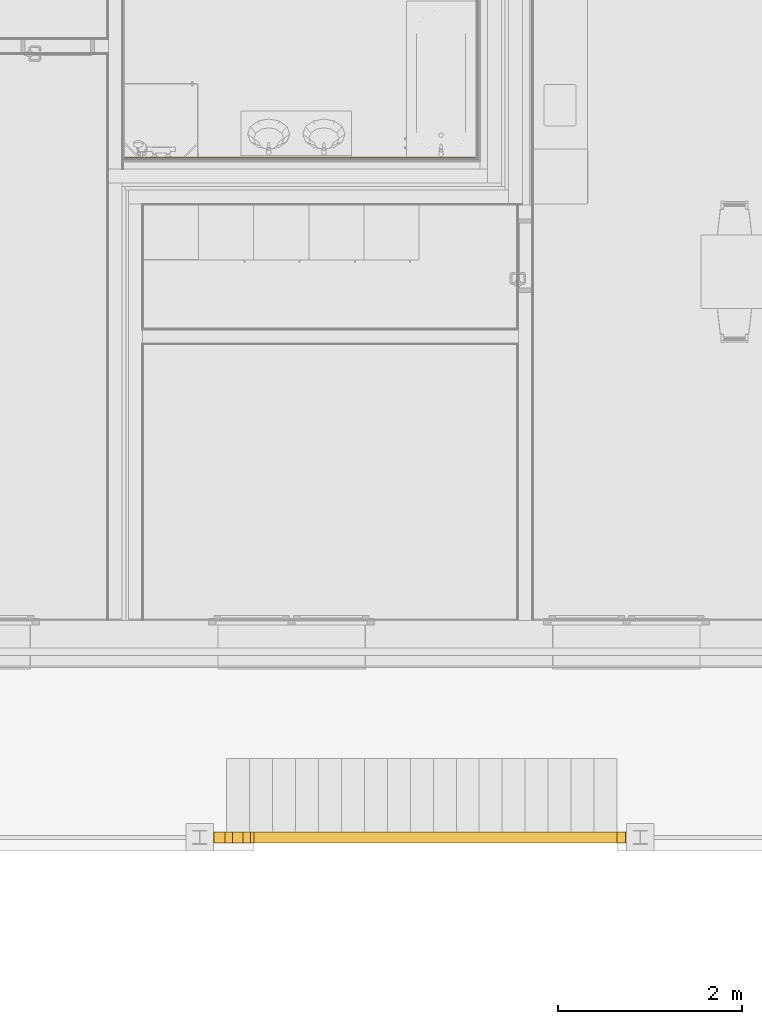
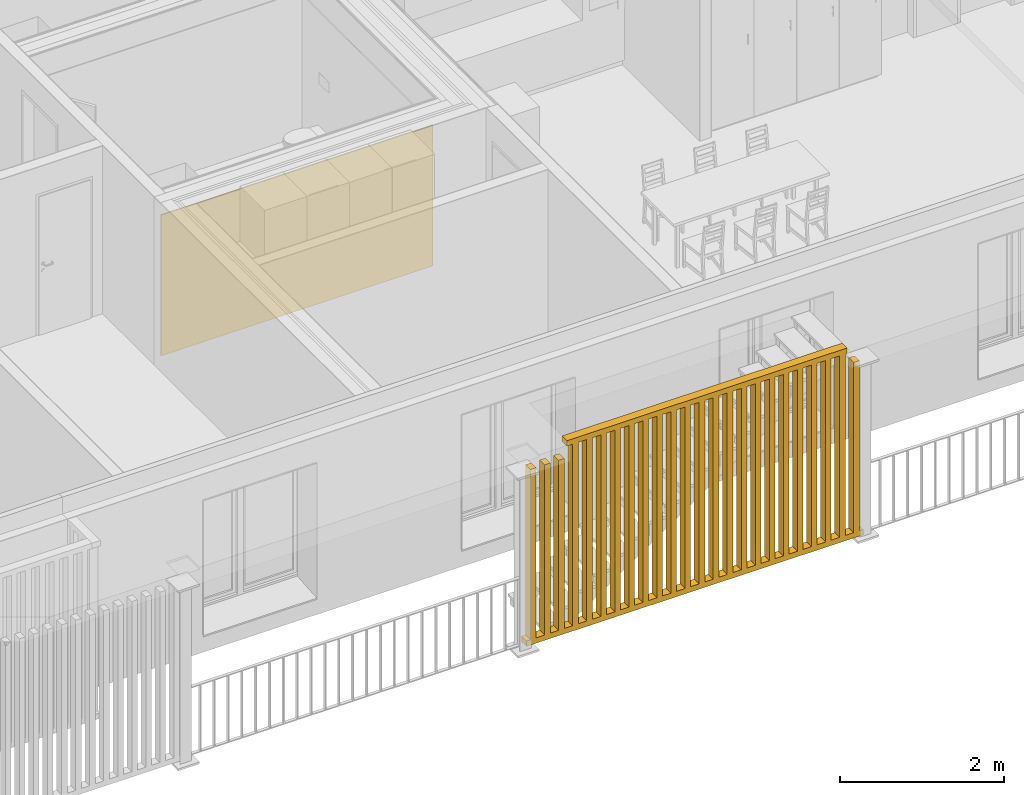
# One storey, part 25 of 34: 1 covering, 1 railing.
"""IFC4 building model written with IfcOpenShell, lengths in millimetres."""

import ifcopenshell
import ifcopenshell.guid

model = None  # the IFC model being written
_history = None  # IfcOwnerHistory: only IFC2X3 demands one
_inside = {}  # id of a spatial element -> (the spatial element, [elements in it])
_under = {}  # id of a project, library or spatial element -> (it, [spatial elements below it])
_declared = {}  # id of a project -> (the project, [libraries it declares])
_typed = {}  # id of a type object -> (the type object, [elements of that type])
_made_of = {}  # id of a material, layer set ... -> (it, [elements and type objects made of it])


def new_model(schema):
    """Start an empty IFC model of exactly this schema.

    Asked for "IFC4X3", IfcOpenShell would pick the latest addendum, in which some entities
    have other attributes; the version numbers below select the first issue.
    IFC2X3 requires an IfcOwnerHistory on every rooted entity: one is made here for all.
    """
    global model, _history
    if schema == "IFC4X3":
        model = ifcopenshell.file(schema_version=(4, 3, 0, 0))
    else:
        model = ifcopenshell.file(schema=schema)
    _inside.clear()
    _under.clear()
    _declared.clear()
    _typed.clear()
    _made_of.clear()
    _history = None
    if model.schema == "IFC2X3":
        org = make("IfcOrganization", Name="unknown")
        user = make(
            "IfcPersonAndOrganization",
            ThePerson=make("IfcPerson", FamilyName="unknown"),
            TheOrganization=org,
        )
        app = make(
            "IfcApplication",
            ApplicationDeveloper=org,
            Version="unknown",
            ApplicationFullName="unknown",
            ApplicationIdentifier="unknown",
        )
        _history = make(
            "IfcOwnerHistory",
            OwningUser=user,
            OwningApplication=app,
            ChangeAction="ADDED",
            CreationDate=0,
        )
    return model


def make(cls, **values):
    """One entity of the class cls with the attributes given. An attribute that is None is left unset."""
    return model.create_entity(
        cls, **{name: value for name, value in values.items() if value is not None}
    )


def entity(cls, *values):
    """Any entity or typed value of the class cls, its attributes in the order of the schema. None: left unset."""
    e = model.create_entity(cls)
    for i, value in enumerate(values):
        if value is not None:
            e[i] = value
    return e


def rooted(cls, **values):
    """An entity with a GlobalId (a new one), such as an element, a storey or a relation."""
    return make(cls, GlobalId=ifcopenshell.guid.new(), OwnerHistory=_history, **values)


def si_unit(unit_type, name, prefix=None):
    """IfcSIUnit, for example si_unit("LENGTHUNIT", "METRE", prefix="MILLI")."""
    return make("IfcSIUnit", UnitType=unit_type, Prefix=prefix, Name=name)


def converted_unit(unit_type, name, factor, base, dimensions=None, offset=None):
    """IfcConversionBasedUnit, such as the inch: factor (a typed value) times the base unit."""
    return make(
        "IfcConversionBasedUnit"
        if offset is None
        else "IfcConversionBasedUnitWithOffset",
        ConversionOffset=offset,
        Dimensions=None
        if dimensions is None
        else entity("IfcDimensionalExponents", *dimensions),
        UnitType=unit_type,
        Name=name,
        ConversionFactor=make(
            "IfcMeasureWithUnit", ValueComponent=factor, UnitComponent=base
        ),
    )


def derived_unit(unit_type, elements):
    """IfcDerivedUnit: a product of units, each with its exponent."""
    return make(
        "IfcDerivedUnit",
        Elements=[
            make("IfcDerivedUnitElement", Unit=unit, Exponent=power)
            for unit, power in elements
        ],
        UnitType=unit_type,
    )


def assignment(units):
    """IfcUnitAssignment: the units of a project."""
    return None if units is None else make("IfcUnitAssignment", Units=units)


def point(xyz):
    """IfcCartesianPoint."""
    return None if xyz is None else make("IfcCartesianPoint", Coordinates=xyz)


def direction(xyz):
    """IfcDirection."""
    return None if xyz is None else make("IfcDirection", DirectionRatios=xyz)


def frame(location, z_axis=None, x_axis=None):
    """IfcAxis2Placement3D, a coordinate frame: its origin and axes. An axis left out is left unset."""
    return make(
        "IfcAxis2Placement3D",
        Location=point(location),
        Axis=direction(z_axis),
        RefDirection=direction(x_axis),
    )


def origin_with_axes():
    """The frame at (0, 0, 0) with the z axis (0, 0, 1) and the x axis (1, 0, 0) written out."""
    return frame((0.0, 0.0, 0.0), z_axis=(0.0, 0.0, 1.0), x_axis=(1.0, 0.0, 0.0))


def place(relative_to, where):
    """IfcLocalPlacement: puts the frame where relative to a parent placement (None: the world)."""
    return make(
        "IfcLocalPlacement", PlacementRelTo=relative_to, RelativePlacement=where
    )


def context(
    kind, dimensions, precision=None, world=None, true_north=None, identifier=None
):
    """IfcGeometricRepresentationContext, for example the 3D "Model" context."""
    return make(
        "IfcGeometricRepresentationContext",
        ContextIdentifier=identifier,
        ContextType=kind,
        CoordinateSpaceDimension=dimensions,
        Precision=precision,
        WorldCoordinateSystem=world,
        TrueNorth=true_north,
    )


def subcontext(parent, identifier, kind, view, scale=None):
    """IfcGeometricRepresentationSubContext, for example "Body" below "Model"."""
    return make(
        "IfcGeometricRepresentationSubContext",
        ContextIdentifier=identifier,
        ContextType=kind,
        ParentContext=parent,
        TargetScale=scale,
        TargetView=view,
    )


def project(units=None, contexts=None):
    """IfcProject with its units and contexts."""
    return rooted(
        "IfcProject",
        Name="project",
        RepresentationContexts=contexts,
        UnitsInContext=assignment(units),
    )


def spatial(cls, under=None, at=None, **own):
    """A site, building, storey or space (cls), placed at a placement, below another one or the project."""
    s = rooted(cls, ObjectPlacement=at, **own)
    if under is not None:
        _under.setdefault(under.id(), (under, []))[1].append(s)
    return s


def point_list(points):
    """IfcCartesianPointList2D or 3D."""
    cls = (
        "IfcCartesianPointList2D" if len(points[0]) == 2 else "IfcCartesianPointList3D"
    )
    return make(cls, CoordList=points)


def polygons(points, faces, closed=None, point_numbers=None):
    """IfcPolygonalFaceSet: a face is its outer loop, then its inner loops; points numbered from 1."""
    made = []
    for loops in faces:
        if len(loops) == 1:
            made.append(make("IfcIndexedPolygonalFace", CoordIndex=loops[0]))
        else:
            made.append(
                make(
                    "IfcIndexedPolygonalFaceWithVoids",
                    CoordIndex=loops[0],
                    InnerCoordIndices=loops[1:],
                )
            )
    return make(
        "IfcPolygonalFaceSet",
        Coordinates=point_list(points),
        Closed=closed,
        Faces=made,
        PnIndex=point_numbers,
    )


def shape(context_of_items, identifier, shape_type, items):
    """IfcShapeRepresentation: the items that make up one representation, for example the "Body"."""
    return make(
        "IfcShapeRepresentation",
        ContextOfItems=context_of_items,
        RepresentationIdentifier=identifier,
        RepresentationType=shape_type,
        Items=items,
    )


def material(Name=None, Category=None):
    """IfcMaterial."""
    return make("IfcMaterial", Name=Name, Category=Category)


def constituent(of_material, Name=None, Category=None, fraction=None):
    """IfcMaterialConstituent: one of the materials an element consists of."""
    return make(
        "IfcMaterialConstituent",
        Name=Name,
        Material=of_material,
        Fraction=fraction,
        Category=Category,
    )


def constituent_set(constituents=None, Name=None):
    """IfcMaterialConstituentSet."""
    return make(
        "IfcMaterialConstituentSet", Name=Name, MaterialConstituents=constituents
    )


def made_of(thing, what):
    """Note that an element or type object is made of a material, layer set ...; save() writes the relation."""
    if what is not None:
        _made_of.setdefault(what.id(), (what, []))[1].append(thing)
    return thing


def type_object(cls, material=None, **own):
    """A type object (cls), such as IfcWallType, which elements share."""
    return made_of(rooted(cls, **own), material)


def element(
    cls,
    number,
    at=None,
    inside=None,
    cuts=None,
    type_object=None,
    material=None,
    context=None,
    identifier="Body",
    shape_type=None,
    held_by="IfcProductDefinitionShape",
    body=None,
    shapes=None,
    **own,
):
    """One element of the class cls, such as IfcWall. Its Tag is "e" and its number.

    at: its placement. inside: the storey or other place that contains it. cuts: it is an
    opening in that element (IfcRelVoidsElement). A single representation is given by context,
    identifier, shape_type and body (its items); several are given by shapes. held_by: the class
    of the entity that holds the representations. save() writes the other relations.
    """
    e = rooted(cls, Tag="e%d" % number, ObjectPlacement=at, **own)
    if body is not None:
        shapes = [shape(context, identifier, shape_type, body)]
    if shapes is not None:
        e.Representation = make(held_by, Representations=shapes)
    if inside is not None:
        _inside.setdefault(inside.id(), (inside, []))[1].append(e)
    if cuts is not None:
        rooted(
            "IfcRelVoidsElement", RelatingBuildingElement=cuts, RelatedOpeningElement=e
        )
    if type_object is not None:
        _typed.setdefault(type_object.id(), (type_object, []))[1].append(e)
    return made_of(e, material)


def aggregate(whole, parts):
    """IfcRelAggregates: a whole, such as a stair, and the parts it consists of."""
    return rooted("IfcRelAggregates", RelatingObject=whole, RelatedObjects=parts)


def save(model, path):
    """Write the relations noted so far, then the file.

    IfcRelAggregates (storeys below a building ...), IfcRelContainedInSpatialStructure (elements
    in a storey), IfcRelDefinesByType, IfcRelAssociatesMaterial and IfcRelDeclares: one each for
    every whole, place, type object, material and project.
    """
    for whole, parts in _under.values():
        aggregate(whole, parts)
    for where, things in _inside.values():
        rooted(
            "IfcRelContainedInSpatialStructure",
            RelatedElements=things,
            RelatingStructure=where,
        )
    for kind, things in _typed.values():
        rooted("IfcRelDefinesByType", RelatedObjects=things, RelatingType=kind)
    for what, things in _made_of.values():
        rooted("IfcRelAssociatesMaterial", RelatedObjects=things, RelatingMaterial=what)
    for by, libraries in _declared.values():
        rooted("IfcRelDeclares", RelatingContext=by, RelatedDefinitions=libraries)
    model.write(path)


model = new_model("IFC4")

# Units and contexts
model_context = context("Model", 3, precision=0.01, world=origin_with_axes(), true_north=direction((0.0, 1.0)))
body_context = subcontext(model_context, "Body", "Model", "MODEL_VIEW")
ifc_project = project(units=[si_unit("LENGTHUNIT", "METRE", prefix="MILLI"), si_unit("AREAUNIT", "SQUARE_METRE"), si_unit("VOLUMEUNIT", "CUBIC_METRE"), converted_unit("PLANEANGLEUNIT", "DEGREE", entity("IfcPlaneAngleMeasure", 0.0174532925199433), si_unit("PLANEANGLEUNIT", "RADIAN"), dimensions=[0, 0, 0, 0, 0, 0, 0]), converted_unit("TIMEUNIT", "Year", entity("IfcTimeMeasure", 31557600.0), si_unit("TIMEUNIT", "SECOND"), dimensions=[0, 0, 1, 0, 0, 0, 0]), si_unit("MASSUNIT", "GRAM", prefix="KILO"), si_unit("THERMODYNAMICTEMPERATUREUNIT", "DEGREE_CELSIUS"), si_unit("LUMINOUSINTENSITYUNIT", "LUMEN"), si_unit("ENERGYUNIT", "JOULE", prefix="MEGA"), derived_unit("THERMALCONDUCTANCEUNIT", [(si_unit("POWERUNIT", "WATT"), 1), (si_unit("LENGTHUNIT", "METRE"), -1), (si_unit("THERMODYNAMICTEMPERATUREUNIT", "KELVIN"), -1)]), derived_unit("SPECIFICHEATCAPACITYUNIT", [(si_unit("ENERGYUNIT", "JOULE"), 1), (si_unit("MASSUNIT", "GRAM", prefix="KILO"), -1), (si_unit("THERMODYNAMICTEMPERATUREUNIT", "KELVIN"), -1)]), derived_unit("MASSDENSITYUNIT", [(si_unit("MASSUNIT", "GRAM", prefix="KILO"), 1), (si_unit("VOLUMEUNIT", "CUBIC_METRE"), -1)])], contexts=[model_context])

# Site, building, storey
site_placement = place(None, origin_with_axes())
site = spatial("IfcSite", under=ifc_project, at=site_placement, Name="Gelände", CompositionType="ELEMENT")
building_placement = place(site_placement, origin_with_axes())
building = spatial("IfcBuilding", under=site, at=building_placement, Name="Gebäude", CompositionType="ELEMENT")
storey_placement = place(building_placement, frame((0.0, 0.0, 2900.0), z_axis=(0.0, 0.0, 1.0), x_axis=(1.0, 0.0, 0.0)))
storey = spatial("IfcBuildingStorey", under=building, at=storey_placement, Name="1.OG", CompositionType="ELEMENT", Elevation=2900.0)

# Railing
ifc_material_1 = material(Name="Vollholzwerkstoff")
ifc_constituent_1 = constituent(ifc_material_1, Name="Vollholzwerkstoff 1")
ifc_constituent_2 = constituent(ifc_material_1, Name="Vollholzwerkstoff 2")
ifc_constituent_3 = constituent(ifc_material_1, Name="Vollholzwerkstoff 3")
ifc_constituent_4 = constituent(ifc_material_1, Name="Vollholzwerkstoff 4")
ifc_constituent_5 = constituent(ifc_material_1, Name="Vollholzwerkstoff 5")
ifc_constituent_6 = constituent(ifc_material_1, Name="Vollholzwerkstoff 6")
ifc_constituent_7 = constituent(ifc_material_1, Name="Vollholzwerkstoff 7")
ifc_constituent_8 = constituent(ifc_material_1, Name="Vollholzwerkstoff 8")
ifc_constituent_9 = constituent(ifc_material_1, Name="Vollholzwerkstoff 9")
ifc_constituent_10 = constituent(ifc_material_1, Name="Vollholzwerkstoff 10")
ifc_constituent_11 = constituent(ifc_material_1, Name="Vollholzwerkstoff 11")
ifc_constituent_12 = constituent(ifc_material_1, Name="Vollholzwerkstoff 12")
ifc_constituent_13 = constituent(ifc_material_1, Name="Vollholzwerkstoff 13")
ifc_constituent_14 = constituent(ifc_material_1, Name="Vollholzwerkstoff 14")
ifc_constituent_15 = constituent(ifc_material_1, Name="Vollholzwerkstoff 15")
ifc_constituent_16 = constituent(ifc_material_1, Name="Vollholzwerkstoff 16")
ifc_constituent_17 = constituent(ifc_material_1, Name="Vollholzwerkstoff 17")
ifc_constituent_18 = constituent(ifc_material_1, Name="Vollholzwerkstoff 18")
ifc_constituent_19 = constituent(ifc_material_1, Name="Vollholzwerkstoff 19")
ifc_constituent_20 = constituent(ifc_material_1, Name="Vollholzwerkstoff 20")
ifc_constituent_21 = constituent(ifc_material_1, Name="Vollholzwerkstoff 21")
ifc_constituent_22 = constituent(ifc_material_1, Name="Vollholzwerkstoff 22")
ifc_constituent_23 = constituent(ifc_material_1, Name="Vollholzwerkstoff 23")
ifc_constituent_24 = constituent(ifc_material_1, Name="Vollholzwerkstoff 24")
ifc_constituent_25 = constituent(ifc_material_1, Name="Vollholzwerkstoff 25")
ifc_constituent_26 = constituent(ifc_material_1, Name="Vollholzwerkstoff 26")
ifc_constituent_set_1 = constituent_set(constituents=[ifc_constituent_1, ifc_constituent_2, ifc_constituent_3, ifc_constituent_4, ifc_constituent_5, ifc_constituent_6, ifc_constituent_7, ifc_constituent_8, ifc_constituent_9, ifc_constituent_10, ifc_constituent_11, ifc_constituent_12, ifc_constituent_13, ifc_constituent_14, ifc_constituent_15, ifc_constituent_16, ifc_constituent_17, ifc_constituent_18, ifc_constituent_19, ifc_constituent_20, ifc_constituent_21, ifc_constituent_22, ifc_constituent_23, ifc_constituent_24, ifc_constituent_25, ifc_constituent_26])
railing_type = type_object("IfcRailingType", Name="Geländerart", PredefinedType="NOTDEFINED")
railing_placement = place(storey_placement, frame((996.5363564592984, 21097.59674077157, 74.99999999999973), z_axis=(0.0, 0.0, 1.0), x_axis=(1.0, 0.0, 0.0)))
element("IfcRailing", 1, at=railing_placement, inside=storey, type_object=railing_type, material=ifc_constituent_set_1, Name="Geländer-001", PredefinedType="NOTDEFINED", context=body_context, shape_type="Tessellation", body=[
    polygons([(4659.859462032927, 59.99999999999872, 2824.999999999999), (4659.859462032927, 59.99999999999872, 2744.999999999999), (711.3826347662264, 59.99999999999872, 2744.999999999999), (711.3826347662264, 59.99999999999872, 2824.999999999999), (4659.859462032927, -59.99999999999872, 2824.999999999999), (4659.859462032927, -59.99999999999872, 2744.999999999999), (711.3826347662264, -59.99999999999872, 2744.999999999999), (711.3826347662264, -59.99999999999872, 2824.999999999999)], [[[1, 2, 3, 4]], [[2, 1, 5, 6]], [[2, 6, 7, 3]], [[8, 4, 3, 7]], [[5, 1, 4, 8]], [[6, 5, 8, 7]]], closed=True),
    polygons([(139.0594620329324, -59.99999999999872, 40.00000000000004), (139.0594620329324, -59.99999999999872, -40.00000000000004), (4889.859462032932, -59.99999999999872, -40.00000000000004), (4889.859462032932, -59.99999999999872, 40.00000000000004), (139.0594620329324, 59.99999999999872, 40.00000000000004), (139.0594620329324, 59.99999999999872, -40.00000000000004), (4889.859462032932, 59.99999999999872, -40.00000000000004), (4889.859462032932, 59.99999999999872, 40.00000000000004)], [[[1, 2, 3, 4]], [[1, 5, 6, 2]], [[2, 6, 7, 3]], [[4, 3, 7, 8]], [[5, 1, 4, 8]], [[6, 5, 8, 7]]], closed=True),
    polygons([(197.0914620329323, 59.99999999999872, 2574.999999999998), (277.0914620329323, 59.99999999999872, 2574.999999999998), (277.0914620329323, 59.99999999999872, 40.00000000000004), (197.0914620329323, 59.99999999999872, 40.00000000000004), (277.0914620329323, -59.99999999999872, 2574.999999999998), (197.0914620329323, -59.99999999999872, 2574.999999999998), (277.0914620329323, -59.99999999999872, 40.00000000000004), (197.0914620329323, -59.99999999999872, 40.00000000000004)], [[[1, 2, 3, 4]], [[5, 2, 1, 6]], [[2, 5, 7, 3]], [[3, 7, 8, 4]], [[6, 1, 4, 8]], [[5, 6, 8, 7]]], closed=True),
    polygons([(395.1234620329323, 59.99999999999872, 2574.999999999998), (475.1234620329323, 59.99999999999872, 2574.999999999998), (475.1234620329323, 59.99999999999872, 40.00000000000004), (395.1234620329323, 59.99999999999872, 40.00000000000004), (475.1234620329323, -59.99999999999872, 2574.999999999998), (395.1234620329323, -59.99999999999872, 2574.999999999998), (475.1234620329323, -59.99999999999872, 40.00000000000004), (395.1234620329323, -59.99999999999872, 40.00000000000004)], [[[1, 2, 3, 4]], [[5, 2, 1, 6]], [[2, 5, 7, 3]], [[3, 7, 8, 4]], [[6, 1, 4, 8]], [[5, 6, 8, 7]]], closed=True),
    polygons([(593.1554620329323, 59.99999999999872, 2574.999999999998), (673.1554620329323, 59.99999999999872, 2574.999999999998), (673.1554620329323, 59.99999999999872, 40.00000000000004), (593.1554620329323, 59.99999999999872, 40.00000000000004), (673.1554620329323, -59.99999999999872, 2574.999999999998), (593.1554620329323, -59.99999999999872, 2574.999999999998), (673.1554620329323, -59.99999999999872, 40.00000000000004), (593.1554620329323, -59.99999999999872, 40.00000000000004)], [[[1, 2, 3, 4]], [[5, 2, 1, 6]], [[2, 5, 7, 3]], [[3, 7, 8, 4]], [[6, 1, 4, 8]], [[5, 6, 8, 7]]], closed=True),
    polygons([(871.1874620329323, -59.99999999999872, 2744.999999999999), (871.1874620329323, -59.99999999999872, 40.00000000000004), (871.1874620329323, 59.99999999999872, 40.00000000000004), (871.1874620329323, 59.99999999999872, 2744.999999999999), (791.1874620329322, -59.99999999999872, 2744.999999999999), (791.1874620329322, -59.99999999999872, 40.00000000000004), (791.1874620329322, 59.99999999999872, 40.00000000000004), (791.1874620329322, 59.99999999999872, 2744.999999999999)], [[[1, 2, 3, 4]], [[5, 6, 2, 1]], [[3, 2, 6, 7]], [[4, 3, 7, 8]], [[5, 1, 4, 8]], [[8, 7, 6, 5]]], closed=True),
    polygons([(1069.219462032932, -59.99999999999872, 2744.999999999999), (1069.219462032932, -59.99999999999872, 40.00000000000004), (1069.219462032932, 59.99999999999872, 40.00000000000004), (1069.219462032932, 59.99999999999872, 2744.999999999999), (989.2194620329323, -59.99999999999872, 2744.999999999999), (989.2194620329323, -59.99999999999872, 40.00000000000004), (989.2194620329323, 59.99999999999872, 40.00000000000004), (989.2194620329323, 59.99999999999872, 2744.999999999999)], [[[1, 2, 3, 4]], [[5, 6, 2, 1]], [[3, 2, 6, 7]], [[4, 3, 7, 8]], [[5, 1, 4, 8]], [[8, 7, 6, 5]]], closed=True),
    polygons([(1267.251462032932, -59.99999999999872, 2744.999999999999), (1267.251462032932, -59.99999999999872, 40.00000000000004), (1267.251462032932, 59.99999999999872, 40.00000000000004), (1267.251462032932, 59.99999999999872, 2744.999999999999), (1187.251462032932, -59.99999999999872, 2744.999999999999), (1187.251462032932, -59.99999999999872, 40.00000000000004), (1187.251462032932, 59.99999999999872, 40.00000000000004), (1187.251462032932, 59.99999999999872, 2744.999999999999)], [[[1, 2, 3, 4]], [[5, 6, 2, 1]], [[3, 2, 6, 7]], [[4, 3, 7, 8]], [[5, 1, 4, 8]], [[8, 7, 6, 5]]], closed=True),
    polygons([(1465.283462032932, -59.99999999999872, 2744.999999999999), (1465.283462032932, -59.99999999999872, 40.00000000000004), (1465.283462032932, 59.99999999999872, 40.00000000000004), (1465.283462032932, 59.99999999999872, 2744.999999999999), (1385.283462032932, -59.99999999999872, 2744.999999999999), (1385.283462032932, -59.99999999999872, 40.00000000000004), (1385.283462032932, 59.99999999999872, 40.00000000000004), (1385.283462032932, 59.99999999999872, 2744.999999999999)], [[[1, 2, 3, 4]], [[5, 6, 2, 1]], [[3, 2, 6, 7]], [[4, 3, 7, 8]], [[5, 1, 4, 8]], [[8, 7, 6, 5]]], closed=True),
    polygons([(1663.315462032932, -59.99999999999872, 2744.999999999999), (1663.315462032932, -59.99999999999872, 40.00000000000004), (1663.315462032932, 59.99999999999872, 40.00000000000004), (1663.315462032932, 59.99999999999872, 2744.999999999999), (1583.315462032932, -59.99999999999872, 2744.999999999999), (1583.315462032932, -59.99999999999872, 40.00000000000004), (1583.315462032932, 59.99999999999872, 40.00000000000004), (1583.315462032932, 59.99999999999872, 2744.999999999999)], [[[1, 2, 3, 4]], [[5, 6, 2, 1]], [[3, 2, 6, 7]], [[4, 3, 7, 8]], [[5, 1, 4, 8]], [[8, 7, 6, 5]]], closed=True),
    polygons([(1861.347462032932, -59.99999999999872, 2744.999999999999), (1861.347462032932, -59.99999999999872, 40.00000000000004), (1861.347462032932, 59.99999999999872, 40.00000000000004), (1861.347462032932, 59.99999999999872, 2744.999999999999), (1781.347462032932, -59.99999999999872, 2744.999999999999), (1781.347462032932, -59.99999999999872, 40.00000000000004), (1781.347462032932, 59.99999999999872, 40.00000000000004), (1781.347462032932, 59.99999999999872, 2744.999999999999)], [[[1, 2, 3, 4]], [[5, 6, 2, 1]], [[3, 2, 6, 7]], [[4, 3, 7, 8]], [[5, 1, 4, 8]], [[8, 7, 6, 5]]], closed=True),
    polygons([(2059.379462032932, -59.99999999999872, 2744.999999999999), (2059.379462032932, -59.99999999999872, 40.00000000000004), (2059.379462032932, 59.99999999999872, 40.00000000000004), (2059.379462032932, 59.99999999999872, 2744.999999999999), (1979.379462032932, -59.99999999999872, 2744.999999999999), (1979.379462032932, -59.99999999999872, 40.00000000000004), (1979.379462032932, 59.99999999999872, 40.00000000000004), (1979.379462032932, 59.99999999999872, 2744.999999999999)], [[[1, 2, 3, 4]], [[5, 6, 2, 1]], [[3, 2, 6, 7]], [[4, 3, 7, 8]], [[5, 1, 4, 8]], [[8, 7, 6, 5]]], closed=True),
    polygons([(2257.411462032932, -59.99999999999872, 2744.999999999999), (2257.411462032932, -59.99999999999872, 40.00000000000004), (2257.411462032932, 59.99999999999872, 40.00000000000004), (2257.411462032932, 59.99999999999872, 2744.999999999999), (2177.411462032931, -59.99999999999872, 2744.999999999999), (2177.411462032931, -59.99999999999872, 40.00000000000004), (2177.411462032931, 59.99999999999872, 40.00000000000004), (2177.411462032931, 59.99999999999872, 2744.999999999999)], [[[1, 2, 3, 4]], [[5, 6, 2, 1]], [[3, 2, 6, 7]], [[4, 3, 7, 8]], [[5, 1, 4, 8]], [[8, 7, 6, 5]]], closed=True),
    polygons([(2455.443462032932, -59.99999999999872, 2744.999999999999), (2455.443462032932, -59.99999999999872, 40.00000000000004), (2455.443462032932, 59.99999999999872, 40.00000000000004), (2455.443462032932, 59.99999999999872, 2744.999999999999), (2375.443462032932, -59.99999999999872, 2744.999999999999), (2375.443462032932, -59.99999999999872, 40.00000000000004), (2375.443462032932, 59.99999999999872, 40.00000000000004), (2375.443462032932, 59.99999999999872, 2744.999999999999)], [[[1, 2, 3, 4]], [[5, 6, 2, 1]], [[3, 2, 6, 7]], [[4, 3, 7, 8]], [[5, 1, 4, 8]], [[8, 7, 6, 5]]], closed=True),
    polygons([(2653.475462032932, -59.99999999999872, 2744.999999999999), (2653.475462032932, -59.99999999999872, 40.00000000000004), (2653.475462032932, 59.99999999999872, 40.00000000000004), (2653.475462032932, 59.99999999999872, 2744.999999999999), (2573.475462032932, -59.99999999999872, 2744.999999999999), (2573.475462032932, -59.99999999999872, 40.00000000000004), (2573.475462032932, 59.99999999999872, 40.00000000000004), (2573.475462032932, 59.99999999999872, 2744.999999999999)], [[[1, 2, 3, 4]], [[5, 6, 2, 1]], [[3, 2, 6, 7]], [[4, 3, 7, 8]], [[5, 1, 4, 8]], [[8, 7, 6, 5]]], closed=True),
    polygons([(2851.507462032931, -59.99999999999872, 2744.999999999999), (2851.507462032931, -59.99999999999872, 40.00000000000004), (2851.507462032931, 59.99999999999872, 40.00000000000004), (2851.507462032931, 59.99999999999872, 2744.999999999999), (2771.507462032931, -59.99999999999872, 2744.999999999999), (2771.507462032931, -59.99999999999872, 40.00000000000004), (2771.507462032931, 59.99999999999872, 40.00000000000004), (2771.507462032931, 59.99999999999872, 2744.999999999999)], [[[1, 2, 3, 4]], [[5, 6, 2, 1]], [[3, 2, 6, 7]], [[4, 3, 7, 8]], [[5, 1, 4, 8]], [[8, 7, 6, 5]]], closed=True),
    polygons([(3049.539462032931, -59.99999999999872, 2744.999999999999), (3049.539462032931, -59.99999999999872, 40.00000000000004), (3049.539462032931, 59.99999999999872, 40.00000000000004), (3049.539462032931, 59.99999999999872, 2744.999999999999), (2969.539462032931, -59.99999999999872, 2744.999999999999), (2969.539462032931, -59.99999999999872, 40.00000000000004), (2969.539462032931, 59.99999999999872, 40.00000000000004), (2969.539462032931, 59.99999999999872, 2744.999999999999)], [[[1, 2, 3, 4]], [[5, 6, 2, 1]], [[3, 2, 6, 7]], [[4, 3, 7, 8]], [[5, 1, 4, 8]], [[8, 7, 6, 5]]], closed=True),
    polygons([(3247.571462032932, -59.99999999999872, 2744.999999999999), (3247.571462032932, -59.99999999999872, 40.00000000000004), (3247.571462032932, 59.99999999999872, 40.00000000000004), (3247.571462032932, 59.99999999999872, 2744.999999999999), (3167.571462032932, -59.99999999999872, 2744.999999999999), (3167.571462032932, -59.99999999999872, 40.00000000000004), (3167.571462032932, 59.99999999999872, 40.00000000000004), (3167.571462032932, 59.99999999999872, 2744.999999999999)], [[[1, 2, 3, 4]], [[5, 6, 2, 1]], [[3, 2, 6, 7]], [[4, 3, 7, 8]], [[5, 1, 4, 8]], [[8, 7, 6, 5]]], closed=True),
    polygons([(3445.603462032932, -59.99999999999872, 2744.999999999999), (3445.603462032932, -59.99999999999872, 40.00000000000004), (3445.603462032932, 59.99999999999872, 40.00000000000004), (3445.603462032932, 59.99999999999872, 2744.999999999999), (3365.603462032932, -59.99999999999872, 2744.999999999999), (3365.603462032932, -59.99999999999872, 40.00000000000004), (3365.603462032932, 59.99999999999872, 40.00000000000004), (3365.603462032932, 59.99999999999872, 2744.999999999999)], [[[1, 2, 3, 4]], [[5, 6, 2, 1]], [[3, 2, 6, 7]], [[4, 3, 7, 8]], [[5, 1, 4, 8]], [[8, 7, 6, 5]]], closed=True),
    polygons([(3643.635462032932, -59.99999999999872, 2744.999999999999), (3643.635462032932, -59.99999999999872, 40.00000000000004), (3643.635462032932, 59.99999999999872, 40.00000000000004), (3643.635462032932, 59.99999999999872, 2744.999999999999), (3563.635462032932, -59.99999999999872, 2744.999999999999), (3563.635462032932, -59.99999999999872, 40.00000000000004), (3563.635462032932, 59.99999999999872, 40.00000000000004), (3563.635462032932, 59.99999999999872, 2744.999999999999)], [[[1, 2, 3, 4]], [[5, 6, 2, 1]], [[3, 2, 6, 7]], [[4, 3, 7, 8]], [[5, 1, 4, 8]], [[8, 7, 6, 5]]], closed=True),
    polygons([(3841.667462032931, -59.99999999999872, 2744.999999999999), (3841.667462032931, -59.99999999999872, 40.00000000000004), (3841.667462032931, 59.99999999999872, 40.00000000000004), (3841.667462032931, 59.99999999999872, 2744.999999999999), (3761.667462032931, -59.99999999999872, 2744.999999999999), (3761.667462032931, -59.99999999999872, 40.00000000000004), (3761.667462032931, 59.99999999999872, 40.00000000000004), (3761.667462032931, 59.99999999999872, 2744.999999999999)], [[[1, 2, 3, 4]], [[5, 6, 2, 1]], [[3, 2, 6, 7]], [[4, 3, 7, 8]], [[5, 1, 4, 8]], [[8, 7, 6, 5]]], closed=True),
    polygons([(4039.699462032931, -59.99999999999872, 2744.999999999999), (4039.699462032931, -59.99999999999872, 40.00000000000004), (4039.699462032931, 59.99999999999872, 40.00000000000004), (4039.699462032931, 59.99999999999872, 2744.999999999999), (3959.699462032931, -59.99999999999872, 2744.999999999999), (3959.699462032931, -59.99999999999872, 40.00000000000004), (3959.699462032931, 59.99999999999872, 40.00000000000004), (3959.699462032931, 59.99999999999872, 2744.999999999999)], [[[1, 2, 3, 4]], [[5, 6, 2, 1]], [[3, 2, 6, 7]], [[4, 3, 7, 8]], [[5, 1, 4, 8]], [[8, 7, 6, 5]]], closed=True),
    polygons([(4237.731462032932, -59.99999999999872, 2744.999999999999), (4237.731462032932, -59.99999999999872, 40.00000000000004), (4237.731462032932, 59.99999999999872, 40.00000000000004), (4237.731462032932, 59.99999999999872, 2744.999999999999), (4157.731462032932, -59.99999999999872, 2744.999999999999), (4157.731462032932, -59.99999999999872, 40.00000000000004), (4157.731462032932, 59.99999999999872, 40.00000000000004), (4157.731462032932, 59.99999999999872, 2744.999999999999)], [[[1, 2, 3, 4]], [[5, 6, 2, 1]], [[3, 2, 6, 7]], [[4, 3, 7, 8]], [[5, 1, 4, 8]], [[8, 7, 6, 5]]], closed=True),
    polygons([(4435.763462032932, -59.99999999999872, 2744.999999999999), (4435.763462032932, -59.99999999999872, 40.00000000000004), (4435.763462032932, 59.99999999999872, 40.00000000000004), (4435.763462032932, 59.99999999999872, 2744.999999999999), (4355.763462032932, -59.99999999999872, 2744.999999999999), (4355.763462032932, -59.99999999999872, 40.00000000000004), (4355.763462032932, 59.99999999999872, 40.00000000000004), (4355.763462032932, 59.99999999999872, 2744.999999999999)], [[[1, 2, 3, 4]], [[5, 6, 2, 1]], [[3, 2, 6, 7]], [[4, 3, 7, 8]], [[5, 1, 4, 8]], [[8, 7, 6, 5]]], closed=True),
    polygons([(4633.795462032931, -59.99999999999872, 2744.999999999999), (4633.795462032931, -59.99999999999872, 40.00000000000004), (4633.795462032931, 59.99999999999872, 40.00000000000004), (4633.795462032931, 59.99999999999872, 2744.999999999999), (4553.795462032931, -59.99999999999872, 2744.999999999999), (4553.795462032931, -59.99999999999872, 40.00000000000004), (4553.795462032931, 59.99999999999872, 40.00000000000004), (4553.795462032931, 59.99999999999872, 2744.999999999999)], [[[1, 2, 3, 4]], [[5, 6, 2, 1]], [[3, 2, 6, 7]], [[4, 3, 7, 8]], [[5, 1, 4, 8]], [[8, 7, 6, 5]]], closed=True),
    polygons([(4751.82746203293, 59.99999999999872, 2574.999999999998), (4831.82746203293, 59.99999999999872, 2574.999999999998), (4831.82746203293, 59.99999999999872, 40.00000000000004), (4751.82746203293, 59.99999999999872, 40.00000000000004), (4831.82746203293, -59.99999999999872, 2574.999999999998), (4751.82746203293, -59.99999999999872, 2574.999999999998), (4831.82746203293, -59.99999999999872, 40.00000000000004), (4751.82746203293, -59.99999999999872, 40.00000000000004)], [[[1, 2, 3, 4]], [[5, 2, 1, 6]], [[2, 5, 7, 3]], [[3, 7, 8, 4]], [[6, 1, 4, 8]], [[5, 6, 8, 7]]], closed=True),
])

# Covering
ifc_material_2 = material(Name="Naturstein")
ifc_constituent_27 = constituent(ifc_material_2, Name="Naturstein")
ifc_constituent_set_2 = constituent_set(constituents=[ifc_constituent_27], Name="Wandbekleidung Typ 01")
covering_type = type_object("IfcCoveringType", Name="Wandbekleidung Typ 01 15", PredefinedType="NOTDEFINED")
covering_placement = place(storey_placement, frame((4115.995818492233, 28494.37338563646, 149.9999999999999), z_axis=(0.0, 0.0, 1.0), x_axis=(-1.0, 0.0, 0.0)))
element("IfcCovering", 2, at=covering_placement, inside=storey, type_object=covering_type, material=ifc_constituent_set_2, Name="Wand-014", PredefinedType="NOTDEFINED", context=body_context, shape_type="Tessellation", body=[
    polygons([(3832.999999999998, 15.00000000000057, 0.0), (3832.999999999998, 0.0, 0.0), (0.0, 0.0, 0.0), (0.0, 15.00000000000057, 0.0), (3832.999999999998, 15.00000000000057, 2100.0), (3832.999999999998, 0.0, 2100.0), (0.0, 0.0, 2100.0), (0.0, 15.00000000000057, 2100.0)], [[[1, 2, 3, 4]], [[2, 1, 5, 6]], [[2, 6, 7, 3]], [[8, 4, 3, 7]], [[5, 1, 4, 8]], [[6, 5, 8, 7]]], closed=True),
])

save(model, "model.ifc")
